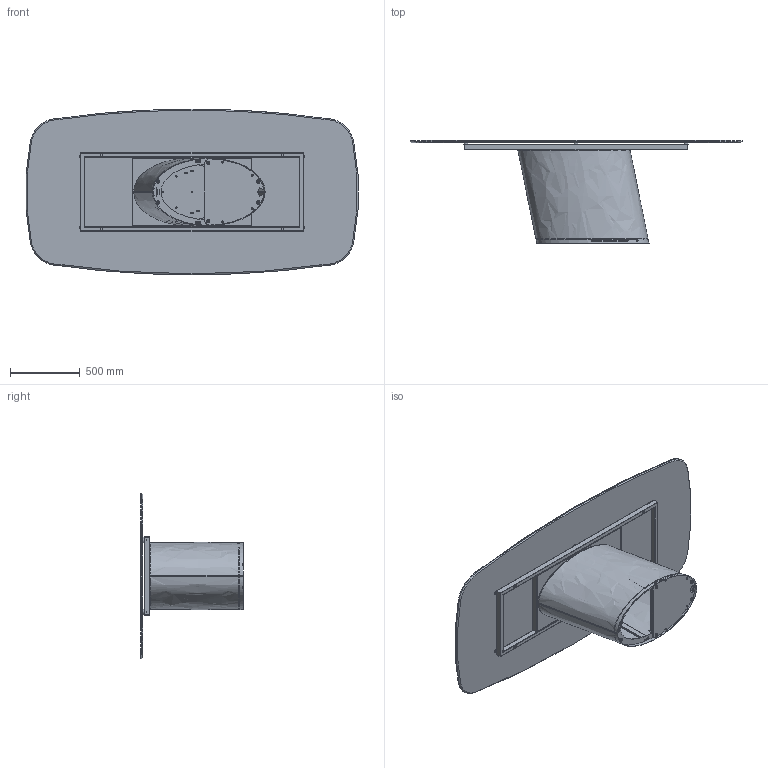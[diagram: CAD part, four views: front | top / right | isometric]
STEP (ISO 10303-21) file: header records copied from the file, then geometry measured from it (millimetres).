
FILE_DESCRIPTION (( 'STEP AP203' ), '1' );
FILE_NAME ('DO42C.STEP', '2024-08-06T13:14:49', ( '' ), ( '' ), 'SwSTEP 2.0', 'SolidWorks 2022', '' );
FILE_SCHEMA (( 'CONFIG_CONTROL_DESIGN' ));
Length unit declared in the file: millimetre
Products named in the file (22): DOB000000_08-00-Zavorra inferiore_Default<A macchina>; TTAV01_02-05-VASSOIO IRRIGIDIMENTO TELAIO UNIVERSALE; M8xXXmm_M8x20mm; DOB000000_05-00-Zavorra intenra del dorado_Default<A macchina>; rondella M8_8X24; DOB000000_03-00-Piastra  inferiore_Default<A macchina>; DOB000000_02-00-barra rettangoalre di supporto_Default<A macchina>; M8xXXmm_M8X30mm; TTAV01_01-05-TELAIO UNIVERSALE X TAVOLI 180 240cm; 434070-00-PIEDINO TPV GOMMA NERO D. 30x8max18_filo estetico; DOB000000_07-00-lamiera guscio sx_Default<A macchina>; TTAV01-05-TELAIO UNIVERSALE X TAVOLI 180 240cm; DOB000000_06-00-Lamiera guscio dx_Default<A macchina>; DOB000000-00-DORADO BASE GREZZO; DO42C; K4XCMXX-00-Piani Sagomati in ceramica_2390 x 1190; DOB000000_01-00-piastra superiore _Default<A macchina>; piedino dorado; nut_M8_M8; barra filettata H.72cm_barra; COLLO TELAIO UNIVERSALE TTAV01 CON FERRAMENTA_MTG TOP CRISTALLO VERNICIATO-CERAMICA; DOB000000_04-00-contrapesso filettato_Default<A macchina>
Assembly tree (48 placements, depth 4):
  DO42C
    DOB000000-00-DORADO BASE GREZZO
      DOB000000_08-00-Zavorra inferiore_Default<A macchina>
      DOB000000_04-00-contrapesso filettato_Default<A macchina>
      DOB000000_05-00-Zavorra intenra del dorado_Default<A macchina>  x4
      DOB000000_01-00-piastra superiore _Default<A macchina>
      DOB000000_07-00-lamiera guscio sx_Default<A macchina>
      DOB000000_02-00-barra rettangoalre di supporto_Default<A macchina>  x4
      DOB000000_03-00-Piastra  inferiore_Default<A macchina>
      DOB000000_06-00-Lamiera guscio dx_Default<A macchina>
      M8xXXmm_M8X30mm  x4
      nut_M8_M8  x2
      piedino dorado  x6
      barra filettata H.72cm_barra  x2
    COLLO TELAIO UNIVERSALE TTAV01 CON FERRAMENTA_MTG TOP CRISTALLO VERNICIATO-CERAMICA
      TTAV01-05-TELAIO UNIVERSALE X TAVOLI 180 240cm
        TTAV01_02-05-VASSOIO IRRIGIDIMENTO TELAIO UNIVERSALE
        TTAV01_01-05-TELAIO UNIVERSALE X TAVOLI 180 240cm
      434070-00-PIEDINO TPV GOMMA NERO D. 30x8max18_filo estetico  x6
    rondella M8_8X24  x4
    M8xXXmm_M8x20mm  x4
    K4XCMXX-00-Piani Sagomati in ceramica_2390 x 1190
Bounding box: 2382.15 x 738 x 1190 mm (x, y, z)
Volume: 53922391.9 mm3; surface area: 17827118.1 mm2
Topology: 58 solids, 58 shells, 1313 faces, 3125 edges, 1938 vertices
Faces by surface type: cylinder 516, plane 470, torus 148, cone 145, bspline 26, sphere 8
Entity records: 28777 total; most frequent: CARTESIAN_POINT 8164, DIRECTION 3831, ORIENTED_EDGE 3530, EDGE_CURVE 1765, AXIS2_PLACEMENT_3D 1447, VERTEX_POINT 1128, LINE 937, VECTOR 937
